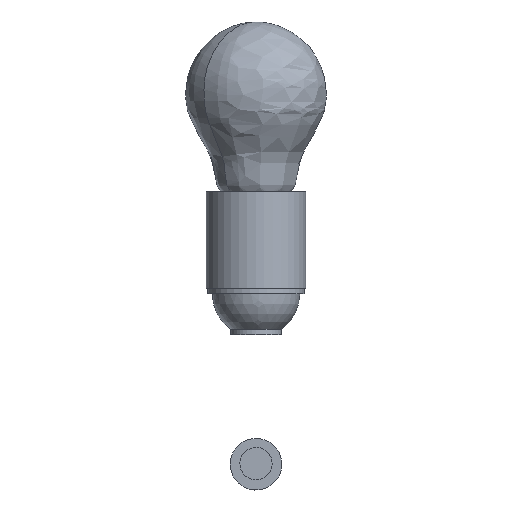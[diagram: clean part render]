
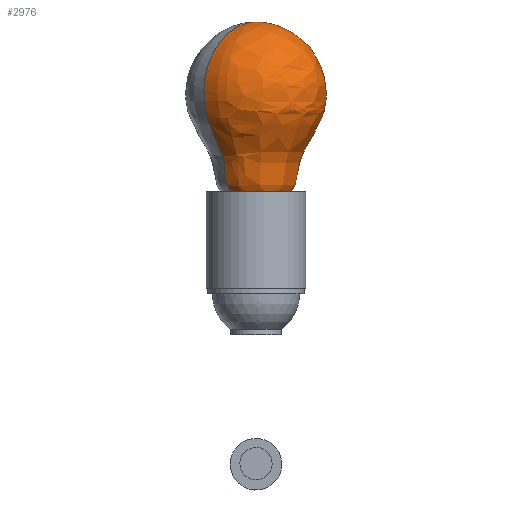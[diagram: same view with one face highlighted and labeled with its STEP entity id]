
A CAD part, top view. The second image highlights one B-rep face of the part: STEP entity #2976.
In plain terms, the highlighted free-form (B-spline) face has degree [3, 3] with [10, 4] control points.
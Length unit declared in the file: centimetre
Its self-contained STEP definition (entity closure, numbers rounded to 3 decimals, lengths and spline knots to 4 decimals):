
#160=(
BOUNDED_SURFACE()
B_SPLINE_SURFACE(3,3,((#5421,#5422,#5423,#5424),(#5425,#5426,#5427,#5428),
(#5429,#5430,#5431,#5432),(#5433,#5434,#5435,#5436),(#5437,#5438,#5439,
#5440),(#5441,#5442,#5443,#5444),(#5445,#5446,#5447,#5448),(#5449,#5450,
#5451,#5452),(#5453,#5454,#5455,#5456),(#5457,#5458,#5459,#5460)),
 .UNSPECIFIED.,.F.,.F.,.F.)
B_SPLINE_SURFACE_WITH_KNOTS((4,1,1,1,1,1,1,4),(4,4),(0.0039,
0.0368,0.0514,0.1387,0.1891,
0.5043,0.5893,1.),(0.,1.),.UNSPECIFIED.)
GEOMETRIC_REPRESENTATION_ITEM()
RATIONAL_B_SPLINE_SURFACE(((1.,0.333,0.333,1.),
(1.,0.333,0.333,1.),(1.,0.333,0.333,
1.),(1.,0.333,0.333,1.),(1.,0.333,0.333,
1.),(1.,0.333,0.333,1.),(1.,0.333,0.333,
1.),(1.,0.333,0.333,1.),(1.,0.333,0.333,
1.),(1.,0.333,0.333,1.)))
REPRESENTATION_ITEM('')
SURFACE()
);
#196=FACE_OUTER_BOUND('',#367,.T.);
#367=EDGE_LOOP('',(#1959,#1960,#1961));
#581=CIRCLE('',#3194,1.31);
#711=B_SPLINE_CURVE_WITH_KNOTS('',3,(#5462,#5463,#5464,#5465,#5466,#5467,
#5468,#5469,#5470,#5471),.UNSPECIFIED.,.F.,.F.,(4,1,1,1,1,1,1,4),(0.0039,
0.0368,0.0514,0.1387,0.1891,
0.5043,0.5893,1.),.UNSPECIFIED.);
#712=B_SPLINE_CURVE_WITH_KNOTS('',3,(#5473,#5474,#5475,#5476,#5477,#5478,
#5479,#5480,#5481,#5482),.UNSPECIFIED.,.F.,.F.,(4,1,1,1,1,1,1,4),(0.0039,
0.0368,0.0514,0.1387,0.1891,
0.5043,0.5893,1.),.UNSPECIFIED.);
#1194=VERTEX_POINT('',#5306);
#1195=VERTEX_POINT('',#5311);
#1212=VERTEX_POINT('',#5461);
#1504=EDGE_CURVE('',#1194,#1212,#711,.T.);
#1505=EDGE_CURVE('',#1195,#1194,#581,.T.);
#1506=EDGE_CURVE('',#1195,#1212,#712,.T.);
#1959=ORIENTED_EDGE('',*,*,#1504,.F.);
#1960=ORIENTED_EDGE('',*,*,#1505,.F.);
#1961=ORIENTED_EDGE('',*,*,#1506,.T.);
#2976=ADVANCED_FACE('',(#196),#160,.T.);
#3194=AXIS2_PLACEMENT_3D('',#5472,#3534,#3535);
#3534=DIRECTION('center_axis',(0.,-1.,0.));
#3535=DIRECTION('ref_axis',(-0.68,0.,-0.733));
#5306=CARTESIAN_POINT('',(-0.9606,5.47,0.8907));
#5311=CARTESIAN_POINT('',(0.9606,5.47,-0.8907));
#5421=CARTESIAN_POINT('Ctrl Pts',(0.9606,5.47,-0.8907));
#5422=CARTESIAN_POINT('Ctrl Pts',(2.742,5.47,1.0304));
#5423=CARTESIAN_POINT('Ctrl Pts',(0.8209,5.47,2.8119));
#5424=CARTESIAN_POINT('Ctrl Pts',(-0.9606,5.47,0.8907));
#5425=CARTESIAN_POINT('Ctrl Pts',(0.9913,5.5675,-0.9192));
#5426=CARTESIAN_POINT('Ctrl Pts',(2.8296,5.5675,1.0633));
#5427=CARTESIAN_POINT('Ctrl Pts',(0.8471,5.5675,2.9017));
#5428=CARTESIAN_POINT('Ctrl Pts',(-0.9913,5.5675,0.9192));
#5429=CARTESIAN_POINT('Ctrl Pts',(1.0752,5.6513,-0.997));
#5430=CARTESIAN_POINT('Ctrl Pts',(3.0693,5.6513,1.1534));
#5431=CARTESIAN_POINT('Ctrl Pts',(0.9189,5.6513,3.1475));
#5432=CARTESIAN_POINT('Ctrl Pts',(-1.0752,5.6513,0.997));
#5433=CARTESIAN_POINT('Ctrl Pts',(1.1965,6.0062,-1.1095));
#5434=CARTESIAN_POINT('Ctrl Pts',(3.4156,6.0062,1.2835));
#5435=CARTESIAN_POINT('Ctrl Pts',(1.0225,6.0062,3.5026));
#5436=CARTESIAN_POINT('Ctrl Pts',(-1.1965,6.0062,1.1095));
#5437=CARTESIAN_POINT('Ctrl Pts',(1.1819,6.5544,-1.096));
#5438=CARTESIAN_POINT('Ctrl Pts',(3.3739,6.5544,1.2679));
#5439=CARTESIAN_POINT('Ctrl Pts',(1.01,6.5544,3.4598));
#5440=CARTESIAN_POINT('Ctrl Pts',(-1.1819,6.5544,1.096));
#5441=CARTESIAN_POINT('Ctrl Pts',(1.6436,7.8466,-1.5241));
#5442=CARTESIAN_POINT('Ctrl Pts',(4.6918,7.8466,1.7631));
#5443=CARTESIAN_POINT('Ctrl Pts',(1.4046,7.8466,4.8113));
#5444=CARTESIAN_POINT('Ctrl Pts',(-1.6436,7.8466,1.5241));
#5445=CARTESIAN_POINT('Ctrl Pts',(2.0529,8.4826,-1.9037));
#5446=CARTESIAN_POINT('Ctrl Pts',(5.8602,8.4826,2.2022));
#5447=CARTESIAN_POINT('Ctrl Pts',(1.7544,8.4826,6.0095));
#5448=CARTESIAN_POINT('Ctrl Pts',(-2.0529,8.4826,1.9037));
#5449=CARTESIAN_POINT('Ctrl Pts',(1.9799,10.8887,-1.8359));
#5450=CARTESIAN_POINT('Ctrl Pts',(5.6517,10.8887,2.1238));
#5451=CARTESIAN_POINT('Ctrl Pts',(1.692,10.8887,5.7956));
#5452=CARTESIAN_POINT('Ctrl Pts',(-1.9799,10.8887,1.8359));
#5453=CARTESIAN_POINT('Ctrl Pts',(0.9896,12.12,-0.9176));
#5454=CARTESIAN_POINT('Ctrl Pts',(2.8248,12.12,1.0615));
#5455=CARTESIAN_POINT('Ctrl Pts',(0.8457,12.12,2.8968));
#5456=CARTESIAN_POINT('Ctrl Pts',(-0.9896,12.12,0.9176));
#5457=CARTESIAN_POINT('Ctrl Pts',(0.,12.12,0.));
#5458=CARTESIAN_POINT('Ctrl Pts',(0.,12.12,0.));
#5459=CARTESIAN_POINT('Ctrl Pts',(0.,12.12,0.));
#5460=CARTESIAN_POINT('Ctrl Pts',(0.,12.12,0.));
#5461=CARTESIAN_POINT('',(0.,12.12,0.));
#5462=CARTESIAN_POINT('Ctrl Pts',(-0.9606,5.47,0.8907));
#5463=CARTESIAN_POINT('Ctrl Pts',(-0.9913,5.5675,0.9192));
#5464=CARTESIAN_POINT('Ctrl Pts',(-1.0752,5.6513,0.997));
#5465=CARTESIAN_POINT('Ctrl Pts',(-1.1965,6.0062,1.1095));
#5466=CARTESIAN_POINT('Ctrl Pts',(-1.1819,6.5544,1.096));
#5467=CARTESIAN_POINT('Ctrl Pts',(-1.6436,7.8466,1.5241));
#5468=CARTESIAN_POINT('Ctrl Pts',(-2.0529,8.4826,1.9037));
#5469=CARTESIAN_POINT('Ctrl Pts',(-1.9799,10.8887,1.8359));
#5470=CARTESIAN_POINT('Ctrl Pts',(-0.9896,12.12,0.9176));
#5471=CARTESIAN_POINT('Ctrl Pts',(0.,12.12,0.));
#5472=CARTESIAN_POINT('Origin',(0.,5.47,0.));
#5473=CARTESIAN_POINT('Ctrl Pts',(0.9606,5.47,-0.8907));
#5474=CARTESIAN_POINT('Ctrl Pts',(0.9913,5.5675,-0.9192));
#5475=CARTESIAN_POINT('Ctrl Pts',(1.0752,5.6513,-0.997));
#5476=CARTESIAN_POINT('Ctrl Pts',(1.1965,6.0062,-1.1095));
#5477=CARTESIAN_POINT('Ctrl Pts',(1.1819,6.5544,-1.096));
#5478=CARTESIAN_POINT('Ctrl Pts',(1.6436,7.8466,-1.5241));
#5479=CARTESIAN_POINT('Ctrl Pts',(2.0529,8.4826,-1.9037));
#5480=CARTESIAN_POINT('Ctrl Pts',(1.9799,10.8887,-1.8359));
#5481=CARTESIAN_POINT('Ctrl Pts',(0.9896,12.12,-0.9176));
#5482=CARTESIAN_POINT('Ctrl Pts',(0.,12.12,0.));
